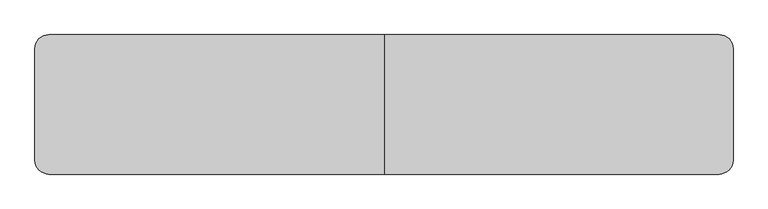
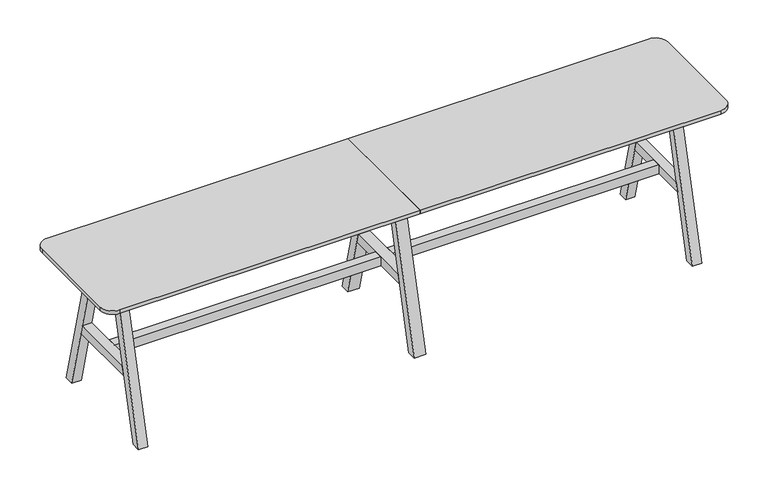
"""IFC4 building model written with IfcOpenShell, lengths in millimetres: furniture geometry, BDG_BossDesign_Tbls_AgentTables6Legs : AGE-DT-6L-3000-600-3D."""

import ifcopenshell
import ifcopenshell.guid

model = None  # the IFC model being written
_history = None  # IfcOwnerHistory: only IFC2X3 demands one
_inside = {}  # id of a spatial element -> (the spatial element, [elements in it])
_under = {}  # id of a project, library or spatial element -> (it, [spatial elements below it])
_declared = {}  # id of a project -> (the project, [libraries it declares])
_typed = {}  # id of a type object -> (the type object, [elements of that type])
_made_of = {}  # id of a material, layer set ... -> (it, [elements and type objects made of it])


def new_model(schema):
    """Start an empty IFC model of exactly this schema.

    Asked for "IFC4X3", IfcOpenShell would pick the latest addendum, in which some entities
    have other attributes; the version numbers below select the first issue.
    IFC2X3 requires an IfcOwnerHistory on every rooted entity: one is made here for all.
    """
    global model, _history
    if schema == "IFC4X3":
        model = ifcopenshell.file(schema_version=(4, 3, 0, 0))
    else:
        model = ifcopenshell.file(schema=schema)
    _inside.clear()
    _under.clear()
    _declared.clear()
    _typed.clear()
    _made_of.clear()
    _history = None
    if model.schema == "IFC2X3":
        org = make("IfcOrganization", Name="unknown")
        user = make(
            "IfcPersonAndOrganization",
            ThePerson=make("IfcPerson", FamilyName="unknown"),
            TheOrganization=org,
        )
        app = make(
            "IfcApplication",
            ApplicationDeveloper=org,
            Version="unknown",
            ApplicationFullName="unknown",
            ApplicationIdentifier="unknown",
        )
        _history = make(
            "IfcOwnerHistory",
            OwningUser=user,
            OwningApplication=app,
            ChangeAction="ADDED",
            CreationDate=0,
        )
    return model


def make(cls, **values):
    """One entity of the class cls with the attributes given. An attribute that is None is left unset."""
    return model.create_entity(
        cls, **{name: value for name, value in values.items() if value is not None}
    )


def rooted(cls, **values):
    """An entity with a GlobalId (a new one), such as an element, a storey or a relation."""
    return make(cls, GlobalId=ifcopenshell.guid.new(), OwnerHistory=_history, **values)


def si_unit(unit_type, name, prefix=None):
    """IfcSIUnit, for example si_unit("LENGTHUNIT", "METRE", prefix="MILLI")."""
    return make("IfcSIUnit", UnitType=unit_type, Prefix=prefix, Name=name)


def assignment(units):
    """IfcUnitAssignment: the units of a project."""
    return None if units is None else make("IfcUnitAssignment", Units=units)


def point(xyz):
    """IfcCartesianPoint."""
    return None if xyz is None else make("IfcCartesianPoint", Coordinates=xyz)


def direction(xyz):
    """IfcDirection."""
    return None if xyz is None else make("IfcDirection", DirectionRatios=xyz)


def frame(location, z_axis=None, x_axis=None):
    """IfcAxis2Placement3D, a coordinate frame: its origin and axes. An axis left out is left unset."""
    return make(
        "IfcAxis2Placement3D",
        Location=point(location),
        Axis=direction(z_axis),
        RefDirection=direction(x_axis),
    )


def frame_2d(location, x_axis=None):
    """IfcAxis2Placement2D, a coordinate frame in the plane: its origin and x axis."""
    return make(
        "IfcAxis2Placement2D", Location=point(location), RefDirection=direction(x_axis)
    )


def origin():
    """The frame at (0, 0, 0) with its axes left unset."""
    return frame((0.0, 0.0, 0.0))


def place(relative_to, where):
    """IfcLocalPlacement: puts the frame where relative to a parent placement (None: the world)."""
    return make(
        "IfcLocalPlacement", PlacementRelTo=relative_to, RelativePlacement=where
    )


def context(
    kind, dimensions, precision=None, world=None, true_north=None, identifier=None
):
    """IfcGeometricRepresentationContext, for example the 3D "Model" context."""
    return make(
        "IfcGeometricRepresentationContext",
        ContextIdentifier=identifier,
        ContextType=kind,
        CoordinateSpaceDimension=dimensions,
        Precision=precision,
        WorldCoordinateSystem=world,
        TrueNorth=true_north,
    )


def project(units=None, contexts=None):
    """IfcProject with its units and contexts."""
    return rooted(
        "IfcProject",
        Name="project",
        RepresentationContexts=contexts,
        UnitsInContext=assignment(units),
    )


def spatial(cls, under=None, at=None, **own):
    """A site, building, storey or space (cls), placed at a placement, below another one or the project."""
    s = rooted(cls, ObjectPlacement=at, **own)
    if under is not None:
        _under.setdefault(under.id(), (under, []))[1].append(s)
    return s


def polyline(points):
    """IfcPolyline through the points."""
    return make("IfcPolyline", Points=[point(p) for p in points])


def circle_curve(where, radius):
    """IfcCircle in the frame where."""
    return make("IfcCircle", Position=where, Radius=radius)


def trimmed(basis, trim1, trim2, sense, master):
    """IfcTrimmedCurve: the piece of a basis curve between two trims."""
    return make(
        "IfcTrimmedCurve",
        BasisCurve=basis,
        Trim1=trim1,
        Trim2=trim2,
        SenseAgreement=sense,
        MasterRepresentation=master,
    )


def segment(curve, same_sense, transition):
    """IfcCompositeCurveSegment."""
    return make(
        "IfcCompositeCurveSegment",
        Transition=transition,
        SameSense=same_sense,
        ParentCurve=curve,
    )


def composite_curve(segments, self_intersect=None):
    """IfcCompositeCurve: segments joined end to end."""
    return make("IfcCompositeCurve", Segments=segments, SelfIntersect=self_intersect)


def outline(outer, holes=None, kind="AREA"):
    """IfcArbitraryClosedProfileDef: a profile drawn as a closed curve; with holes, ...WithVoids."""
    if holes is None:
        return make("IfcArbitraryClosedProfileDef", ProfileType=kind, OuterCurve=outer)
    return make(
        "IfcArbitraryProfileDefWithVoids",
        ProfileType=kind,
        OuterCurve=outer,
        InnerCurves=holes,
    )


def extrude(swept, where, along, depth):
    """IfcExtrudedAreaSolid: the profile swept, set in the frame where, extruded along a direction by depth."""
    return make(
        "IfcExtrudedAreaSolid",
        SweptArea=swept,
        Position=where,
        ExtrudedDirection=direction(along),
        Depth=depth,
    )


def shape(context_of_items, identifier, shape_type, items):
    """IfcShapeRepresentation: the items that make up one representation, for example the "Body"."""
    return make(
        "IfcShapeRepresentation",
        ContextOfItems=context_of_items,
        RepresentationIdentifier=identifier,
        RepresentationType=shape_type,
        Items=items,
    )


def source(mapping_origin, context_of_items, identifier, shape_type, items):
    """IfcRepresentationMap: a shape defined once, which mapped items show again and again."""
    return make(
        "IfcRepresentationMap",
        MappingOrigin=mapping_origin,
        MappedRepresentation=shape(context_of_items, identifier, shape_type, items),
    )


def transform(
    local_origin,
    x_axis=None,
    y_axis=None,
    z_axis=None,
    scale=None,
    scale2=None,
    scale3=None,
    uniform=True,
):
    """IfcCartesianTransformationOperator3D, or its non-uniform kind. x_axis, y_axis, z_axis: its Axis1, 2, 3."""
    if uniform:
        return make(
            "IfcCartesianTransformationOperator3D",
            Axis1=direction(x_axis),
            Axis2=direction(y_axis),
            LocalOrigin=point(local_origin),
            Scale=scale,
            Axis3=direction(z_axis),
        )
    return make(
        "IfcCartesianTransformationOperator3DnonUniform",
        Axis1=direction(x_axis),
        Axis2=direction(y_axis),
        LocalOrigin=point(local_origin),
        Scale=scale,
        Axis3=direction(z_axis),
        Scale2=scale2,
        Scale3=scale3,
    )


def mapped(mapping_source, mapping_target):
    """IfcMappedItem: shows the shape of a source again, moved by a transform."""
    return make(
        "IfcMappedItem", MappingSource=mapping_source, MappingTarget=mapping_target
    )


def made_of(thing, what):
    """Note that an element or type object is made of a material, layer set ...; save() writes the relation."""
    if what is not None:
        _made_of.setdefault(what.id(), (what, []))[1].append(thing)
    return thing


def element(
    cls,
    number,
    at=None,
    inside=None,
    cuts=None,
    type_object=None,
    material=None,
    context=None,
    identifier="Body",
    shape_type=None,
    held_by="IfcProductDefinitionShape",
    body=None,
    shapes=None,
    **own,
):
    """One element of the class cls, such as IfcWall. Its Tag is "e" and its number.

    at: its placement. inside: the storey or other place that contains it. cuts: it is an
    opening in that element (IfcRelVoidsElement). A single representation is given by context,
    identifier, shape_type and body (its items); several are given by shapes. held_by: the class
    of the entity that holds the representations. save() writes the other relations.
    """
    e = rooted(cls, Tag="e%d" % number, ObjectPlacement=at, **own)
    if body is not None:
        shapes = [shape(context, identifier, shape_type, body)]
    if shapes is not None:
        e.Representation = make(held_by, Representations=shapes)
    if inside is not None:
        _inside.setdefault(inside.id(), (inside, []))[1].append(e)
    if cuts is not None:
        rooted(
            "IfcRelVoidsElement", RelatingBuildingElement=cuts, RelatedOpeningElement=e
        )
    if type_object is not None:
        _typed.setdefault(type_object.id(), (type_object, []))[1].append(e)
    return made_of(e, material)


def aggregate(whole, parts):
    """IfcRelAggregates: a whole, such as a stair, and the parts it consists of."""
    return rooted("IfcRelAggregates", RelatingObject=whole, RelatedObjects=parts)


def save(model, path):
    """Write the relations noted so far, then the file.

    IfcRelAggregates (storeys below a building ...), IfcRelContainedInSpatialStructure (elements
    in a storey), IfcRelDefinesByType, IfcRelAssociatesMaterial and IfcRelDeclares: one each for
    every whole, place, type object, material and project.
    """
    for whole, parts in _under.values():
        aggregate(whole, parts)
    for where, things in _inside.values():
        rooted(
            "IfcRelContainedInSpatialStructure",
            RelatedElements=things,
            RelatingStructure=where,
        )
    for kind, things in _typed.values():
        rooted("IfcRelDefinesByType", RelatedObjects=things, RelatingType=kind)
    for what, things in _made_of.values():
        rooted("IfcRelAssociatesMaterial", RelatedObjects=things, RelatingMaterial=what)
    for by, libraries in _declared.values():
        rooted("IfcRelDeclares", RelatingContext=by, RelatedDefinitions=libraries)
    model.write(path)


def furniture_c624f670(model_context):
    return source(origin(), model_context, "Body", "SweptSolid", [
        extrude(outline(polyline([(300.0, 0.0), (254.9999949, 0.0), (85.5, 660.0), (130.5000051, 660.0), (300.0, 0.0)])), frame((-27.5, 0.0, 0.0), z_axis=(1.0, 0.0, 0.0), x_axis=(0.0, 1.0, 0.0)), (0.0, 0.0, 1.0), 55.0),
        extrude(outline(polyline([(-300.0, 0.0), (-130.5000051, 660.0), (-85.5, 660.0), (-254.9999949, 0.0), (-300.0, 0.0)])), frame((-27.5, 0.0, 0.0), z_axis=(1.0, 0.0, 0.0), x_axis=(0.0, 1.0, 0.0)), (0.0, 0.0, 1.0), 55.0),
        extrude(outline(polyline([(177.9545427, 300.0), (-177.9545427, 300.0), (-166.3977249, 345.0), (166.3977249, 345.0), (177.9545427, 300.0)])), frame((-27.5, 0.0, 0.0), z_axis=(1.0, 0.0, 0.0), x_axis=(0.0, 1.0, 0.0)), (0.0, 0.0, 1.0), 55.0),
        extrude(outline(composite_curve([segment(polyline([(0.0, 300.0), (0.0, -300.0), (-1440.0, -300.0)]), True, "CONTINUOUS"), segment(trimmed(circle_curve(frame_2d((-1440.0, -240.0)), 60.0), [point((-1440.0, -300.0))], [point((-1500.0, -240.0))], False, "CARTESIAN"), True, "CONTINUOUS"), segment(polyline([(-1500.0, -240.0), (-1500.0, 240.0)]), True, "CONTINUOUS"), segment(trimmed(circle_curve(frame_2d((-1440.0, 240.0)), 60.0), [point((-1500.0, 240.0))], [point((-1440.0, 300.0))], False, "CARTESIAN"), True, "CONTINUOUS"), segment(polyline([(-1440.0, 300.0), (0.0, 300.0)]), True, "CONTINUOUS")], self_intersect=False)), frame((0.0, 0.0, 722.0), z_axis=(0.0, 0.0, 1.0), x_axis=(1.0, 0.0, 0.0)), (0.0, 0.0, 1.0), 18.0),
        extrude(outline(polyline([(-166.3977249, 345.0), (166.3977249, 345.0), (177.9545427, 300.0), (-177.9545427, 300.0), (-166.3977249, 345.0)])), frame((1305.0, 0.0, 0.0), z_axis=(1.0, 0.0, 0.0), x_axis=(0.0, 1.0, 0.0)), (0.0, 0.0, 1.0), 45.0),
        extrude(outline(polyline([(300.0, 0.0), (254.9999949, 0.0), (85.5, 660.0), (130.5000051, 660.0), (300.0, 0.0)])), frame((-1350.0, 0.0, 0.0), z_axis=(1.0, 0.0, 0.0), x_axis=(0.0, 1.0, 0.0)), (0.0, 0.0, 1.0), 45.0),
        extrude(outline(polyline([(-300.0, 0.0), (-130.5000051, 660.0), (-85.5, 660.0), (-254.9999949, 0.0), (-300.0, 0.0)])), frame((-1350.0, 0.0, 0.0), z_axis=(1.0, 0.0, 0.0), x_axis=(0.0, 1.0, 0.0)), (0.0, 0.0, 1.0), 45.0),
        extrude(outline(polyline([(-166.3977249, 345.0), (166.3977249, 345.0), (177.9545427, 300.0), (-177.9545427, 300.0), (-166.3977249, 345.0)])), frame((-1350.0, 0.0, 0.0), z_axis=(1.0, 0.0, 0.0), x_axis=(0.0, 1.0, 0.0)), (0.0, 0.0, 1.0), 45.0),
        extrude(outline(polyline([(-126.6006165, 634.973938), (-104.2770691, 722.0), (-79.5, 722.0), (-101.8235474, 634.973938), (-126.6006165, 634.973938)])), frame((-1305.0, 0.0, 0.0), z_axis=(1.0, 0.0, 0.0), x_axis=(0.0, 1.0, 0.0)), (0.0, 0.0, 1.0), 2610.0),
        extrude(outline(polyline([(126.6006165, 634.973938), (101.8235474, 634.973938), (79.5, 722.0), (104.2770691, 722.0), (126.6006165, 634.973938)])), frame((-1305.0, 0.0, 0.0), z_axis=(1.0, 0.0, 0.0), x_axis=(0.0, 1.0, 0.0)), (0.0, 0.0, 1.0), 2610.0),
        extrude(outline(polyline([(299.7999878, 0.0), (254.7999827, 0.0), (85.5, 660.0), (130.5000051, 660.0), (299.7999878, 0.0)])), frame((1305.0, 0.0, 0.0), z_axis=(1.0, 0.0, 0.0), x_axis=(0.0, 1.0, 0.0)), (0.0, 0.0, 1.0), 45.0),
        extrude(outline(polyline([(-299.7999878, 0.0), (-130.5000051, 660.0), (-85.5, 660.0), (-254.7999827, 0.0), (-299.7999878, 0.0)])), frame((1305.0, 0.0, 0.0), z_axis=(1.0, 0.0, 0.0), x_axis=(0.0, 1.0, 0.0)), (0.0, 0.0, 1.0), 45.0),
        extrude(outline(polyline([(-27.5, 22.5000305), (-27.5, -22.5000305), (-1305.0, -22.5000305), (-1305.0, 22.5000305), (-27.5, 22.5000305)])), frame((0.0, 0.0, 300.0), z_axis=(0.0, 0.0, 1.0), x_axis=(1.0, 0.0, 0.0)), (0.0, 0.0, 1.0), 45.0),
        extrude(outline(polyline([(27.5, -22.5000305), (27.5, 22.5000305), (1305.0, 22.5000305), (1305.0, -22.5000305), (27.5, -22.5000305)])), frame((0.0, 0.0, 300.0), z_axis=(0.0, 0.0, 1.0), x_axis=(1.0, 0.0, 0.0)), (0.0, 0.0, 1.0), 45.0),
        extrude(outline(composite_curve([segment(trimmed(circle_curve(frame_2d((1440.0, 240.0)), 60.0), [point((1440.0, 300.0))], [point((1500.0, 240.0))], False, "CARTESIAN"), True, "CONTINUOUS"), segment(polyline([(1500.0, 240.0), (1500.0, -240.0)]), True, "CONTINUOUS"), segment(trimmed(circle_curve(frame_2d((1440.0, -240.0)), 60.0), [point((1500.0, -240.0))], [point((1440.0, -300.0))], False, "CARTESIAN"), True, "CONTINUOUS"), segment(polyline([(1440.0, -300.0), (0.0, -300.0), (0.0, 300.0), (1440.0, 300.0)]), True, "CONTINUOUS")], self_intersect=False)), frame((0.0, 0.0, 722.0), z_axis=(0.0, 0.0, 1.0), x_axis=(1.0, 0.0, 0.0)), (0.0, 0.0, 1.0), 18.0),
    ])


if __name__ == "__main__":
    model = new_model("IFC4")
    model_context = context("Model", 3, world=origin())
    ifc_project = project(units=[si_unit("LENGTHUNIT", "METRE", prefix="MILLI")], contexts=[model_context])
    site = spatial("IfcSite", under=ifc_project)
    building = spatial("IfcBuilding", under=site)
    placement = place(None, origin())
    furniture_shape = furniture_c624f670(model_context)
    element("IfcFurniture", 1, ObjectType="BDG_BossDesign_Tbls_AgentTables6Legs : AGE-DT-6L-3000-600-3D", at=placement, inside=building, context=model_context, shape_type="MappedRepresentation", body=[
        mapped(furniture_shape, transform((0.0, 0.0, 0.0), x_axis=(1.0, 0.0, 0.0), y_axis=(0.0, 1.0, 0.0), z_axis=(0.0, 0.0, 1.0))),
    ])
    save(model, "model.ifc")
